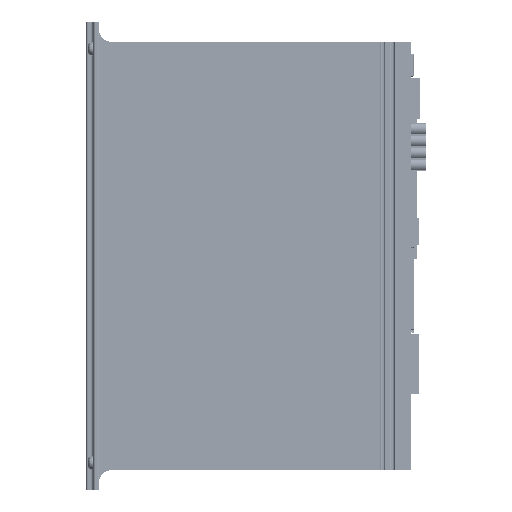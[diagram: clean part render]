
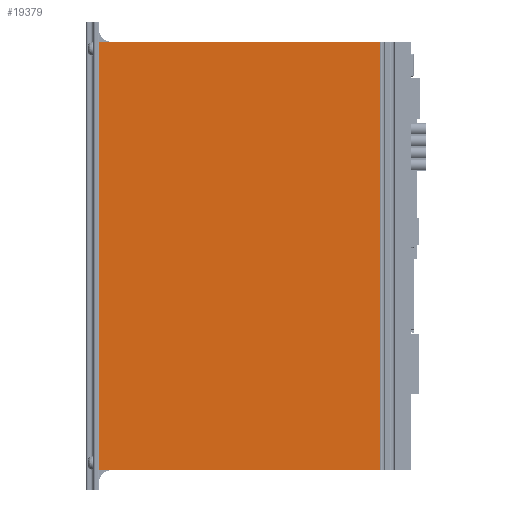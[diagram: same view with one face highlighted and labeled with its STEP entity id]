
A CAD part, front view. The second image highlights one B-rep face of the part: STEP entity #19379.
In plain terms, the highlighted planar face has unit normal (0, -1, 0) as drawn and (-1, 0, 0) by its records, which use the part's own axes.
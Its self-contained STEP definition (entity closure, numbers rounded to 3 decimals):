
#8974=DIRECTION('',(0.,-1.,0.));
#8975=VECTOR('',#8974,179.4);
#8976=CARTESIAN_POINT('',(-23.5,89.7,13.));
#8977=LINE('',#8976,#8975);
#8981=DIRECTION('',(0.,0.,-1.));
#8982=VECTOR('',#8981,118.1);
#8983=CARTESIAN_POINT('',(-23.5,89.7,131.1));
#8984=LINE('',#8983,#8982);
#8988=DIRECTION('',(0.,0.,-1.));
#8989=VECTOR('',#8988,118.1);
#8990=CARTESIAN_POINT('',(-23.5,-89.7,131.1));
#8991=LINE('',#8990,#8989);
#11291=DIRECTION('',(0.,-1.,0.));
#11292=VECTOR('',#11291,179.4);
#11293=CARTESIAN_POINT('',(-23.5,89.7,131.1));
#11294=LINE('',#11293,#11292);
#17628=CARTESIAN_POINT('',(-23.5,-89.7,131.1));
#17630=VERTEX_POINT('',#17628);
#17657=CARTESIAN_POINT('',(-23.5,89.7,131.1));
#17659=VERTEX_POINT('',#17657);
#18166=CARTESIAN_POINT('',(-23.5,89.7,13.));
#18167=CARTESIAN_POINT('',(-23.5,-89.7,13.));
#18168=VERTEX_POINT('',#18166);
#18169=VERTEX_POINT('',#18167);
#19364=CARTESIAN_POINT('',(-23.5,90.,0.));
#19365=DIRECTION('',(-1.,0.,0.));
#19366=DIRECTION('',(0.,-1.,0.));
#19367=AXIS2_PLACEMENT_3D('',#19364,#19365,#19366);
#19368=PLANE('',#19367);
#19370=ORIENTED_EDGE('',*,*,#19369,.F.);
#19372=ORIENTED_EDGE('',*,*,#19371,.F.);
#19374=ORIENTED_EDGE('',*,*,#19373,.T.);
#19376=ORIENTED_EDGE('',*,*,#19375,.T.);
#19377=EDGE_LOOP('',(#19370,#19372,#19374,#19376));
#19378=FACE_OUTER_BOUND('',#19377,.F.);
#19369=EDGE_CURVE('',#18168,#18169,#8977,.T.);
#19371=EDGE_CURVE('',#17659,#18168,#8984,.T.);
#19373=EDGE_CURVE('',#17659,#17630,#11294,.T.);
#19375=EDGE_CURVE('',#17630,#18169,#8991,.T.);
#19379=ADVANCED_FACE('',(#19378),#19368,.T.);
